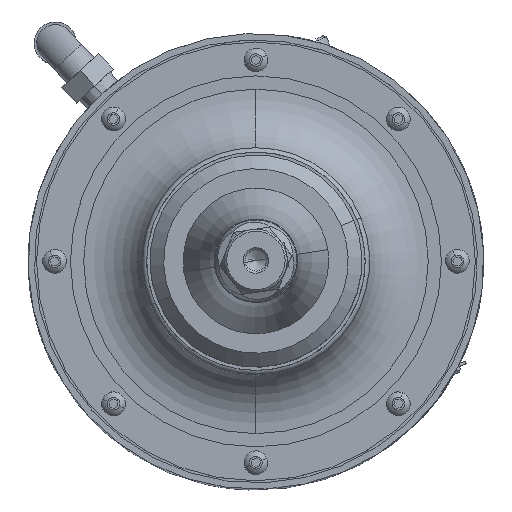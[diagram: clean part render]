
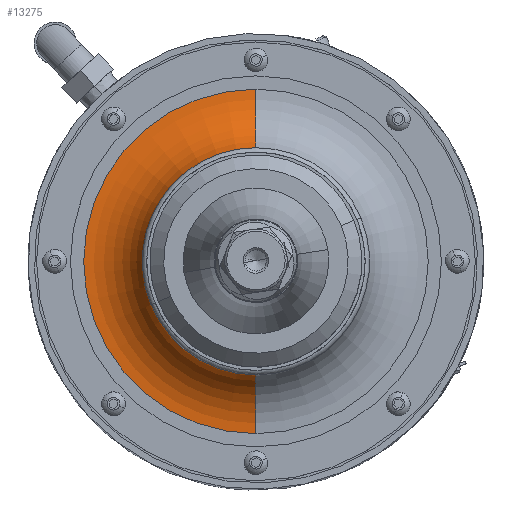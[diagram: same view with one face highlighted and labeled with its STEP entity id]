
A CAD part, top view. The second image highlights one B-rep face of the part: STEP entity #13275.
In plain terms, the highlighted toroidal (fillet/blend) face has major radius 41.275 mm and minor radius 15.113 mm.
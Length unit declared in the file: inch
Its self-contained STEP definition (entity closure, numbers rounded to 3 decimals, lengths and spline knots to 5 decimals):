
#89 = CIRCLE ( 'NONE', #8497, 1.03212 ) ;
#357 = EDGE_CURVE ( 'NONE', #8765, #9519, #1431, .T. ) ;
#639 = AXIS2_PLACEMENT_3D ( 'NONE', #10981, #673, #3081 ) ;
#673 = DIRECTION ( 'NONE',  ( -1., 0., 0. ) ) ;
#1431 = CIRCLE ( 'NONE', #3607, 1.625 ) ;
#1441 = ORIENTED_EDGE ( 'NONE', *, *, #13334, .T. ) ;
#1522 = CIRCLE ( 'NONE', #7073, 1.03212 ) ;
#1610 = ORIENTED_EDGE ( 'NONE', *, *, #5956, .T. ) ;
#2012 = CARTESIAN_POINT ( 'NONE',  ( 0., 0., -0.059 ) ) ;
#2219 = VERTEX_POINT ( 'NONE', #8468 ) ;
#2237 = CARTESIAN_POINT ( 'NONE',  ( 0., 0., 0.48583 ) ) ;
#2956 = CARTESIAN_POINT ( 'NONE',  ( 0., 0., 0.536 ) ) ;
#3081 = DIRECTION ( 'NONE',  ( 0., -1., 0. ) ) ;
#3607 = AXIS2_PLACEMENT_3D ( 'NONE', #2012, #11194, #10229 ) ;
#3795 = DIRECTION ( 'NONE',  ( 0., 0., -1. ) ) ;
#4019 = CARTESIAN_POINT ( 'NONE',  ( 0., -1.625, 0.536 ) ) ;
#4044 = ORIENTED_EDGE ( 'NONE', *, *, #12170, .T. ) ;
#4276 = DIRECTION ( 'NONE',  ( 0., 0., -1. ) ) ;
#5004 = DIRECTION ( 'NONE',  ( 1., 0., 0. ) ) ;
#5956 = EDGE_CURVE ( 'NONE', #6966, #11458, #89, .T. ) ;
#6628 = AXIS2_PLACEMENT_3D ( 'NONE', #4019, #5004, #14380 ) ;
#6880 = TOROIDAL_SURFACE ( 'NONE', #7108, 1.625, 0.595 ) ;
#6966 = VERTEX_POINT ( 'NONE', #12127 ) ;
#7073 = AXIS2_PLACEMENT_3D ( 'NONE', #14782, #10428, #7906 ) ;
#7108 = AXIS2_PLACEMENT_3D ( 'NONE', #2956, #3795, #11909 ) ;
#7906 = DIRECTION ( 'NONE',  ( -1., 0., 0. ) ) ;
#8313 = CIRCLE ( 'NONE', #6628, 0.595 ) ;
#8468 = CARTESIAN_POINT ( 'NONE',  ( 0., 1.03212, 0.48583 ) ) ;
#8497 = AXIS2_PLACEMENT_3D ( 'NONE', #2237, #4276, #13433 ) ;
#8765 = VERTEX_POINT ( 'NONE', #10895 ) ;
#9519 = VERTEX_POINT ( 'NONE', #9658 ) ;
#9542 = ORIENTED_EDGE ( 'NONE', *, *, #11811, .F. ) ;
#9658 = CARTESIAN_POINT ( 'NONE',  ( 0., -1.625, -0.059 ) ) ;
#10122 = EDGE_LOOP ( 'NONE', ( #9542, #11367, #1441, #1610, #4044 ) ) ;
#10229 = DIRECTION ( 'NONE',  ( 0., 1., 0. ) ) ;
#10428 = DIRECTION ( 'NONE',  ( 0., 0., -1. ) ) ;
#10895 = CARTESIAN_POINT ( 'NONE',  ( 0., 1.625, -0.059 ) ) ;
#10973 = CIRCLE ( 'NONE', #639, 0.595 ) ;
#10981 = CARTESIAN_POINT ( 'NONE',  ( 0., 1.625, 0.536 ) ) ;
#11194 = DIRECTION ( 'NONE',  ( 0., 0., 1. ) ) ;
#11293 = CARTESIAN_POINT ( 'NONE',  ( -0.95355, -0.39497, 0.48583 ) ) ;
#11367 = ORIENTED_EDGE ( 'NONE', *, *, #357, .T. ) ;
#11458 = VERTEX_POINT ( 'NONE', #11293 ) ;
#11811 = EDGE_CURVE ( 'NONE', #8765, #2219, #10973, .T. ) ;
#11832 = FACE_OUTER_BOUND ( 'NONE', #10122, .T. ) ;
#11909 = DIRECTION ( 'NONE',  ( 0., -1., 0. ) ) ;
#12127 = CARTESIAN_POINT ( 'NONE',  ( 0., -1.03212, 0.48583 ) ) ;
#12170 = EDGE_CURVE ( 'NONE', #11458, #2219, #1522, .T. ) ;
#13275 = ADVANCED_FACE ( 'NONE', ( #11832 ), #6880, .F. ) ;
#13334 = EDGE_CURVE ( 'NONE', #9519, #6966, #8313, .T. ) ;
#13433 = DIRECTION ( 'NONE',  ( -1., 0., 0. ) ) ;
#14380 = DIRECTION ( 'NONE',  ( 0., 1., 0. ) ) ;
#14782 = CARTESIAN_POINT ( 'NONE',  ( 0., 0., 0.48583 ) ) ;
